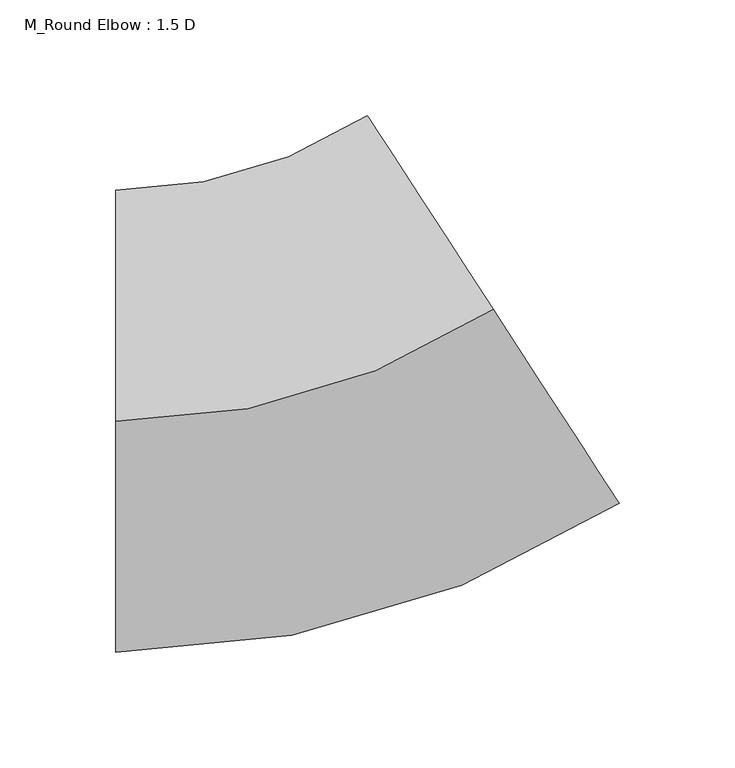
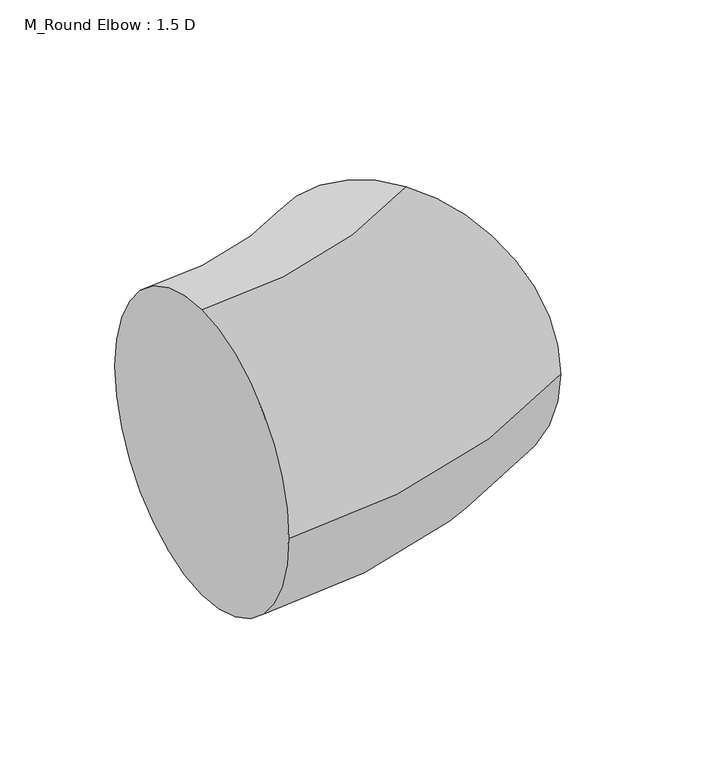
"""IFC4 building model written with IfcOpenShell, lengths in millimetres: duct fitting geometry, M_Round Elbow : 1.5 D."""

from ifc_helpers import new_model, si_unit, point, frame, origin, place, context, project, spatial, circle_curve, ellipse_curve, trimmed, source, transform, mapped, element, save
from ifc_brep_helpers import plane_surface, revolved_surface, advanced_brep


def m_round_elbow_1_5_d_2741b91d(model_context):
    return source(origin(), model_context, "Body", "AdvancedBrep", [
        advanced_brep(
        [(-88.8640485, 0.0, 100.0), (-88.8640485, 100.0, 0.0), (-88.8640485, 0.0, -100.0), (-88.8640485, -100.0, 0.0), (74.527662, 48.3988296, 100.0), (128.9915655, -35.4682272, 0.0), (74.527662, 48.3988296, -100.0), (20.0637585, 132.2658864, 0.0)],
        [
            (0, 1, circle_curve(frame((-88.8640485, 0.0, 0.0), z_axis=(-1.0, 0.0, 0.0), x_axis=(0.0, 1.0, 0.0)), 100.0)),
            (1, 2, circle_curve(frame((-88.8640485, 0.0, 0.0), z_axis=(-1.0, 0.0, 0.0), x_axis=(0.0, 1.0, 0.0)), 100.0)),
            (2, 3, circle_curve(frame((-88.8640485, 0.0, 0.0), z_axis=(-1.0, 0.0, 0.0), x_axis=(0.0, 1.0, 0.0)), 100.0)),
            (3, 0, circle_curve(frame((-88.8640485, 0.0, 0.0), z_axis=(-1.0, 0.0, 0.0), x_axis=(0.0, 1.0, 0.0)), 100.0)),
            (4, 5, circle_curve(frame((74.527662, 48.3988296, 0.0), z_axis=(0.8386705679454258, 0.5446390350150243, 0.0), x_axis=(-0.5446390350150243, 0.8386705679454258, 0.0)), 100.0)),
            (5, 6, circle_curve(frame((74.527662, 48.3988296, 0.0), z_axis=(0.8386705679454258, 0.5446390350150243, 0.0), x_axis=(-0.5446390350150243, 0.8386705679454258, 0.0)), 100.0)),
            (6, 7, circle_curve(frame((74.527662, 48.3988296, 0.0), z_axis=(0.8386705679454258, 0.5446390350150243, 0.0), x_axis=(-0.5446390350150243, 0.8386705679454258, 0.0)), 100.0)),
            (7, 4, circle_curve(frame((74.527662, 48.3988296, 0.0), z_axis=(0.8386705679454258, 0.5446390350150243, 0.0), x_axis=(-0.5446390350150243, 0.8386705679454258, 0.0)), 100.0)),
            (7, 1, circle_curve(frame((-88.8640485, 300.0, 0.0), z_axis=(0.0, 0.0, -1.0), x_axis=(0.0, -1.0, 0.0)), 200.0)),
            (0, 4, circle_curve(frame((-88.8640485, 300.0, 100.0), z_axis=(0.0, 0.0, 1.0), x_axis=(0.0, -1.0, 0.0)), 300.0)),
            (6, 2, circle_curve(frame((-88.8640485, 300.0, -100.0), z_axis=(0.0, 0.0, -1.0), x_axis=(0.0, -1.0, 0.0)), 300.0)),
            (5, 3, circle_curve(frame((-88.8640485, 300.0, 0.0), z_axis=(0.0, 0.0, -1.0), x_axis=(0.0, -1.0, 0.0)), 400.0)),
        ],
        [
            plane_surface(frame((-88.8640485, 0.0, 0.0), z_axis=(-1.0, 0.0, 0.0), x_axis=(0.0, 0.0, 1.0))),
            plane_surface(frame((74.527662, 48.3988296, 0.0), z_axis=(0.8386705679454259, 0.5446390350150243, 0.0), x_axis=(0.0, 0.0, 1.0))),
            revolved_surface(trimmed(ellipse_curve(frame((-88.8640485, 0.0, 0.0), z_axis=(-1.0, 0.0, 0.0), x_axis=(0.0, 1.0, 0.0)), 100.0, 100.0), [point((-88.8640485, 0.0, 100.0))], [point((-88.8640485, 100.0, 0.0))], True, "CARTESIAN"), (-88.8640485, 300.0, 0.0), (0.0, 0.0, 1.0)),
            revolved_surface(trimmed(ellipse_curve(frame((-88.8640485, 0.0, 0.0), z_axis=(-1.0, 0.0, 0.0), x_axis=(0.0, 1.0, 0.0)), 100.0, 100.0), [point((-88.8640485, 100.0, 0.0))], [point((-88.8640485, 0.0, -100.0))], True, "CARTESIAN"), (-88.8640485, 300.0, 0.0), (0.0, 0.0, 1.0)),
            revolved_surface(trimmed(ellipse_curve(frame((-88.8640485, 0.0, 0.0), z_axis=(-1.0, 0.0, 0.0), x_axis=(0.0, 1.0, 0.0)), 100.0, 100.0), [point((-88.8640485, 0.0, -100.0))], [point((-88.8640485, -100.0, 0.0))], True, "CARTESIAN"), (-88.8640485, 300.0, 0.0), (0.0, 0.0, 1.0)),
            revolved_surface(trimmed(ellipse_curve(frame((-88.8640485, 0.0, 0.0), z_axis=(-1.0, 0.0, 0.0), x_axis=(0.0, 1.0, 0.0)), 100.0, 100.0), [point((-88.8640485, -100.0, 0.0))], [point((-88.8640485, 0.0, 100.0))], True, "CARTESIAN"), (-88.8640485, 300.0, 0.0), (0.0, 0.0, 1.0)),
        ],
        [
            (0, [[1, 2, 3, 4]]),
            (1, [[5, 6, 7, 8]]),
            (2, [[9, -1, 10, -8]]),
            (3, [[11, -2, -9, -7]]),
            (4, [[12, -3, -11, -6]]),
            (5, [[-10, -4, -12, -5]]),
        ],
    ),
        advanced_brep(
        [(-88.8640485, 0.0, 100.0), (-88.8640485, 100.0, 0.0), (-88.8640485, 0.0, -100.0), (-88.8640485, -100.0, 0.0), (74.527662, 48.3988296, 100.0), (128.9915655, -35.4682272, 0.0), (74.527662, 48.3988296, -100.0), (20.0637585, 132.2658864, 0.0)],
        [
            (0, 1, circle_curve(frame((-88.8640485, 0.0, 0.0), z_axis=(-1.0, 0.0, 0.0), x_axis=(0.0, 1.0, 0.0)), 100.0)),
            (1, 2, circle_curve(frame((-88.8640485, 0.0, 0.0), z_axis=(-1.0, 0.0, 0.0), x_axis=(0.0, 1.0, 0.0)), 100.0)),
            (2, 3, circle_curve(frame((-88.8640485, 0.0, 0.0), z_axis=(-1.0, 0.0, 0.0), x_axis=(0.0, 1.0, 0.0)), 100.0)),
            (3, 0, circle_curve(frame((-88.8640485, 0.0, 0.0), z_axis=(-1.0, 0.0, 0.0), x_axis=(0.0, 1.0, 0.0)), 100.0)),
            (4, 5, circle_curve(frame((74.527662, 48.3988296, 0.0), z_axis=(0.8386705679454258, 0.5446390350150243, 0.0), x_axis=(-0.5446390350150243, 0.8386705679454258, 0.0)), 100.0)),
            (5, 6, circle_curve(frame((74.527662, 48.3988296, 0.0), z_axis=(0.8386705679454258, 0.5446390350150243, 0.0), x_axis=(-0.5446390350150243, 0.8386705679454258, 0.0)), 100.0)),
            (6, 7, circle_curve(frame((74.527662, 48.3988296, 0.0), z_axis=(0.8386705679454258, 0.5446390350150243, 0.0), x_axis=(-0.5446390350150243, 0.8386705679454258, 0.0)), 100.0)),
            (7, 4, circle_curve(frame((74.527662, 48.3988296, 0.0), z_axis=(0.8386705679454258, 0.5446390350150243, 0.0), x_axis=(-0.5446390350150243, 0.8386705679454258, 0.0)), 100.0)),
            (7, 1, circle_curve(frame((-88.8640485, 300.0, 0.0), z_axis=(0.0, 0.0, -1.0), x_axis=(0.0, -1.0, 0.0)), 200.0)),
            (0, 4, circle_curve(frame((-88.8640485, 300.0, 100.0), z_axis=(0.0, 0.0, 1.0), x_axis=(0.0, -1.0, 0.0)), 300.0)),
            (6, 2, circle_curve(frame((-88.8640485, 300.0, -100.0), z_axis=(0.0, 0.0, -1.0), x_axis=(0.0, -1.0, 0.0)), 300.0)),
            (5, 3, circle_curve(frame((-88.8640485, 300.0, 0.0), z_axis=(0.0, 0.0, -1.0), x_axis=(0.0, -1.0, 0.0)), 400.0)),
        ],
        [
            plane_surface(frame((-88.8640485, 0.0, 0.0), z_axis=(-1.0, 0.0, 0.0), x_axis=(0.0, 0.0, 1.0))),
            plane_surface(frame((74.527662, 48.3988296, 0.0), z_axis=(0.8386705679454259, 0.5446390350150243, 0.0), x_axis=(0.0, 0.0, 1.0))),
            revolved_surface(trimmed(ellipse_curve(frame((-88.8640485, 0.0, 0.0), z_axis=(-1.0, 0.0, 0.0), x_axis=(0.0, 1.0, 0.0)), 100.0, 100.0), [point((-88.8640485, 0.0, 100.0))], [point((-88.8640485, 100.0, 0.0))], True, "CARTESIAN"), (-88.8640485, 300.0, 0.0), (0.0, 0.0, 1.0)),
            revolved_surface(trimmed(ellipse_curve(frame((-88.8640485, 0.0, 0.0), z_axis=(-1.0, 0.0, 0.0), x_axis=(0.0, 1.0, 0.0)), 100.0, 100.0), [point((-88.8640485, 100.0, 0.0))], [point((-88.8640485, 0.0, -100.0))], True, "CARTESIAN"), (-88.8640485, 300.0, 0.0), (0.0, 0.0, 1.0)),
            revolved_surface(trimmed(ellipse_curve(frame((-88.8640485, 0.0, 0.0), z_axis=(-1.0, 0.0, 0.0), x_axis=(0.0, 1.0, 0.0)), 100.0, 100.0), [point((-88.8640485, 0.0, -100.0))], [point((-88.8640485, -100.0, 0.0))], True, "CARTESIAN"), (-88.8640485, 300.0, 0.0), (0.0, 0.0, 1.0)),
            revolved_surface(trimmed(ellipse_curve(frame((-88.8640485, 0.0, 0.0), z_axis=(-1.0, 0.0, 0.0), x_axis=(0.0, 1.0, 0.0)), 100.0, 100.0), [point((-88.8640485, -100.0, 0.0))], [point((-88.8640485, 0.0, 100.0))], True, "CARTESIAN"), (-88.8640485, 300.0, 0.0), (0.0, 0.0, 1.0)),
        ],
        [
            (0, [[1, 2, 3, 4]]),
            (1, [[5, 6, 7, 8]]),
            (2, [[9, -1, 10, -8]]),
            (3, [[11, -2, -9, -7]]),
            (4, [[12, -3, -11, -6]]),
            (5, [[-10, -4, -12, -5]]),
        ],
    ),
        advanced_brep(
        [(-88.8640485, 0.0, 100.0), (-88.8640485, 100.0, 0.0), (-88.8640485, 0.0, -100.0), (-88.8640485, -100.0, 0.0), (74.527662, 48.3988296, 100.0), (128.9915655, -35.4682272, 0.0), (74.527662, 48.3988296, -100.0), (20.0637585, 132.2658864, 0.0)],
        [
            (0, 1, circle_curve(frame((-88.8640485, 0.0, 0.0), z_axis=(-1.0, 0.0, 0.0), x_axis=(0.0, 1.0, 0.0)), 100.0)),
            (1, 2, circle_curve(frame((-88.8640485, 0.0, 0.0), z_axis=(-1.0, 0.0, 0.0), x_axis=(0.0, 1.0, 0.0)), 100.0)),
            (2, 3, circle_curve(frame((-88.8640485, 0.0, 0.0), z_axis=(-1.0, 0.0, 0.0), x_axis=(0.0, 1.0, 0.0)), 100.0)),
            (3, 0, circle_curve(frame((-88.8640485, 0.0, 0.0), z_axis=(-1.0, 0.0, 0.0), x_axis=(0.0, 1.0, 0.0)), 100.0)),
            (4, 5, circle_curve(frame((74.527662, 48.3988296, 0.0), z_axis=(0.8386705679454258, 0.5446390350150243, 0.0), x_axis=(-0.5446390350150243, 0.8386705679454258, 0.0)), 100.0)),
            (5, 6, circle_curve(frame((74.527662, 48.3988296, 0.0), z_axis=(0.8386705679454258, 0.5446390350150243, 0.0), x_axis=(-0.5446390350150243, 0.8386705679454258, 0.0)), 100.0)),
            (6, 7, circle_curve(frame((74.527662, 48.3988296, 0.0), z_axis=(0.8386705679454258, 0.5446390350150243, 0.0), x_axis=(-0.5446390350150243, 0.8386705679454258, 0.0)), 100.0)),
            (7, 4, circle_curve(frame((74.527662, 48.3988296, 0.0), z_axis=(0.8386705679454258, 0.5446390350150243, 0.0), x_axis=(-0.5446390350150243, 0.8386705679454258, 0.0)), 100.0)),
            (7, 1, circle_curve(frame((-88.8640485, 300.0, 0.0), z_axis=(0.0, 0.0, -1.0), x_axis=(0.0, -1.0, 0.0)), 200.0)),
            (0, 4, circle_curve(frame((-88.8640485, 300.0, 100.0), z_axis=(0.0, 0.0, 1.0), x_axis=(0.0, -1.0, 0.0)), 300.0)),
            (6, 2, circle_curve(frame((-88.8640485, 300.0, -100.0), z_axis=(0.0, 0.0, -1.0), x_axis=(0.0, -1.0, 0.0)), 300.0)),
            (5, 3, circle_curve(frame((-88.8640485, 300.0, 0.0), z_axis=(0.0, 0.0, -1.0), x_axis=(0.0, -1.0, 0.0)), 400.0)),
        ],
        [
            plane_surface(frame((-88.8640485, 0.0, 0.0), z_axis=(-1.0, 0.0, 0.0), x_axis=(0.0, 0.0, 1.0))),
            plane_surface(frame((74.527662, 48.3988296, 0.0), z_axis=(0.8386705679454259, 0.5446390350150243, 0.0), x_axis=(0.0, 0.0, 1.0))),
            revolved_surface(trimmed(ellipse_curve(frame((-88.8640485, 0.0, 0.0), z_axis=(-1.0, 0.0, 0.0), x_axis=(0.0, 1.0, 0.0)), 100.0, 100.0), [point((-88.8640485, 0.0, 100.0))], [point((-88.8640485, 100.0, 0.0))], True, "CARTESIAN"), (-88.8640485, 300.0, 0.0), (0.0, 0.0, 1.0)),
            revolved_surface(trimmed(ellipse_curve(frame((-88.8640485, 0.0, 0.0), z_axis=(-1.0, 0.0, 0.0), x_axis=(0.0, 1.0, 0.0)), 100.0, 100.0), [point((-88.8640485, 100.0, 0.0))], [point((-88.8640485, 0.0, -100.0))], True, "CARTESIAN"), (-88.8640485, 300.0, 0.0), (0.0, 0.0, 1.0)),
            revolved_surface(trimmed(ellipse_curve(frame((-88.8640485, 0.0, 0.0), z_axis=(-1.0, 0.0, 0.0), x_axis=(0.0, 1.0, 0.0)), 100.0, 100.0), [point((-88.8640485, 0.0, -100.0))], [point((-88.8640485, -100.0, 0.0))], True, "CARTESIAN"), (-88.8640485, 300.0, 0.0), (0.0, 0.0, 1.0)),
            revolved_surface(trimmed(ellipse_curve(frame((-88.8640485, 0.0, 0.0), z_axis=(-1.0, 0.0, 0.0), x_axis=(0.0, 1.0, 0.0)), 100.0, 100.0), [point((-88.8640485, -100.0, 0.0))], [point((-88.8640485, 0.0, 100.0))], True, "CARTESIAN"), (-88.8640485, 300.0, 0.0), (0.0, 0.0, 1.0)),
        ],
        [
            (0, [[1, 2, 3, 4]]),
            (1, [[5, 6, 7, 8]]),
            (2, [[9, -1, 10, -8]]),
            (3, [[11, -2, -9, -7]]),
            (4, [[12, -3, -11, -6]]),
            (5, [[-10, -4, -12, -5]]),
        ],
    ),
    ])


if __name__ == "__main__":
    model = new_model("IFC4")
    model_context = context("Model", 3, world=origin())
    ifc_project = project(units=[si_unit("LENGTHUNIT", "METRE", prefix="MILLI")], contexts=[model_context])
    site = spatial("IfcSite", under=ifc_project)
    building = spatial("IfcBuilding", under=site)
    placement = place(None, origin())
    m_round_elbow_1_5_d_shape = m_round_elbow_1_5_d_2741b91d(model_context)
    element("IfcDuctFitting", 1, ObjectType="M_Round Elbow : 1.5 D", at=placement, inside=building, context=model_context, shape_type="MappedRepresentation", body=[
        mapped(m_round_elbow_1_5_d_shape, transform((0.0, 0.0, 0.0), x_axis=(1.0, 0.0, 0.0), y_axis=(0.0, 1.0, 0.0), z_axis=(0.0, 0.0, 1.0))),
    ])
    save(model, "model.ifc")
